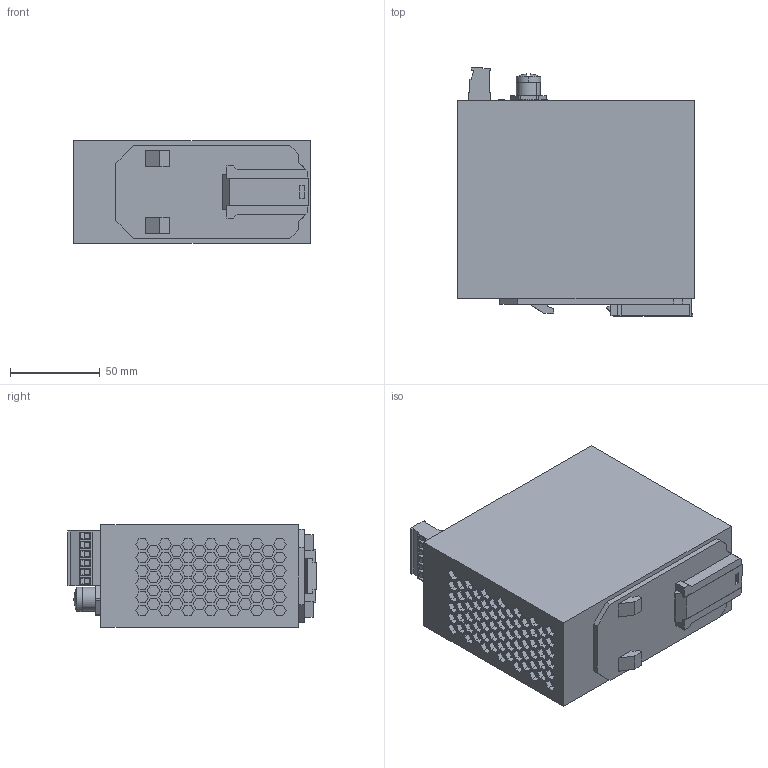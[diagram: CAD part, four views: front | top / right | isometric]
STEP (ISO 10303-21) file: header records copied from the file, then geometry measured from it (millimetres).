
FILE_DESCRIPTION(('SolidDesigner STEP Export'),'2;1');
FILE_NAME('2989543_FL_SWITCH_SMN_6TX_2FX-select.stp','2016-02-10T10:04:45',(''),(''),'Creo Elements/Direct Modeling STEP processor for AP214 (Solid Model)','Creo Elements/Direct Modeling 18.1G 27-Feb-2015 (C) Parametric Technology GmbH','');
FILE_SCHEMA(('AUTOMOTIVE_DESIGN { 1 0 10303 214 1 1 1 1 }'));
Length unit declared in the file: millimetre
Products named in the file (2): 2989543_FL_SWITCH_SMN_6TX_2FX-select
Assembly tree (1 placements, depth 2):
  2989543_FL_SWITCH_SMN_6TX_2FX-select
    2989543_FL_SWITCH_SMN_6TX_2FX-select
Bounding box: 132 x 138.33 x 57 mm (x, y, z)
Volume: 837630 mm3; surface area: 76757.7 mm2
Topology: 1 solids, 1 shells, 1529 faces, 3967 edges, 2636 vertices
Faces by surface type: plane 1465, cylinder 54, torus 8, sphere 2
Entity records: 57578 total; most frequent: CARTESIAN_POINT 8023, ORIENTED_EDGE 7934, DIRECTION 6986, EDGE_CURVE 3967, VECTOR 3788, LINE 3788, VERTEX_POINT 2636, EDGE_LOOP 1727
